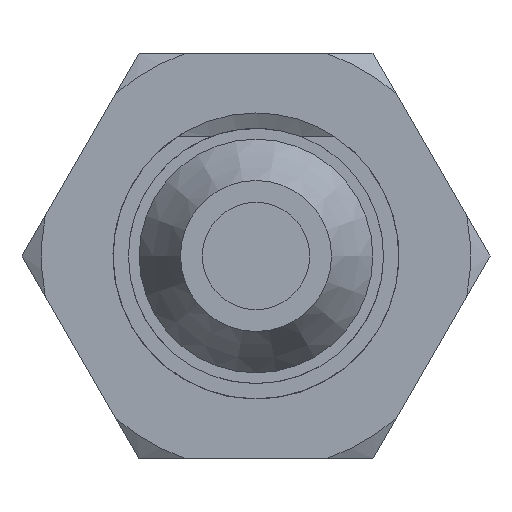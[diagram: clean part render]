
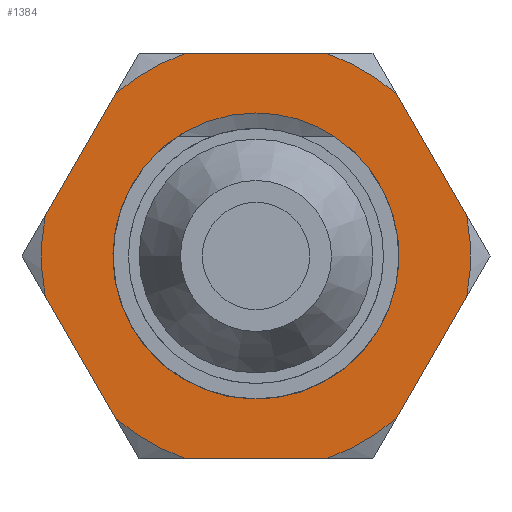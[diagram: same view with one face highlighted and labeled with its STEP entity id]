
A CAD part, left-side view. The second image highlights one B-rep face of the part: STEP entity #1384.
In plain terms, the highlighted planar face has unit normal (-1, 0, 0).
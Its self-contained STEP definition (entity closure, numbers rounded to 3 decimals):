
#1260=CARTESIAN_POINT('',(-7.75,0.,6.));
#1261=VERTEX_POINT('',#1260);
#1262=CARTESIAN_POINT('',(-7.75,0.0,0.));
#1263=DIRECTION('',(-1.0,0.0,0.0));
#1264=DIRECTION('',(0.0,0.0,-1.0));
#1265=AXIS2_PLACEMENT_3D('',#1262,#1263,#1264);
#1266=CIRCLE('',#1265,6.);
#1267=EDGE_CURVE('',#1261,#1261,#1266,.T.);
#1272=CARTESIAN_POINT('',(-7.75,0.,0.));
#1273=DIRECTION('',(1.0,0.0,0.0));
#1274=DIRECTION('',(0.0,0.0,-1.0));
#1275=AXIS2_PLACEMENT_3D('',#1272,#1273,#1274);
#1276=PLANE('',#1275);
#1277=CARTESIAN_POINT('',(-7.75,2.958,8.5));
#1278=VERTEX_POINT('',#1277);
#1279=CARTESIAN_POINT('',(-7.75,5.882,6.812));
#1280=VERTEX_POINT('',#1279);
#1281=CARTESIAN_POINT('',(-7.75,0.0,0.));
#1282=DIRECTION('',(-1.0,0.0,0.0));
#1283=DIRECTION('',(0.0,1.0,0.0));
#1284=AXIS2_PLACEMENT_3D('',#1281,#1282,#1283);
#1285=CIRCLE('',#1284,9.0);
#1286=EDGE_CURVE('',#1278,#1280,#1285,.T.);
#1287=ORIENTED_EDGE('',*,*,#1286,.T.);
#1288=CARTESIAN_POINT('',(-7.75,8.84,1.688));
#1289=VERTEX_POINT('',#1288);
#1290=CARTESIAN_POINT('',(-7.75,5.882,6.812));
#1291=DIRECTION('',(0.0,0.5,-0.866));
#1292=VECTOR('',#1291,5.916);
#1293=LINE('',#1290,#1292);
#1294=EDGE_CURVE('',#1280,#1289,#1293,.T.);
#1295=ORIENTED_EDGE('',*,*,#1294,.T.);
#1296=CARTESIAN_POINT('',(-7.75,8.84,-1.688));
#1297=VERTEX_POINT('',#1296);
#1298=CARTESIAN_POINT('',(-7.75,0.0,0.));
#1299=DIRECTION('',(-1.0,0.0,0.0));
#1300=DIRECTION('',(0.0,1.0,0.0));
#1301=AXIS2_PLACEMENT_3D('',#1298,#1299,#1300);
#1302=CIRCLE('',#1301,9.0);
#1303=EDGE_CURVE('',#1289,#1297,#1302,.T.);
#1304=ORIENTED_EDGE('',*,*,#1303,.T.);
#1305=CARTESIAN_POINT('',(-7.75,5.882,-6.812));
#1306=VERTEX_POINT('',#1305);
#1307=CARTESIAN_POINT('',(-7.75,8.84,-1.688));
#1308=DIRECTION('',(0.0,-0.5,-0.866));
#1309=VECTOR('',#1308,5.916);
#1310=LINE('',#1307,#1309);
#1311=EDGE_CURVE('',#1297,#1306,#1310,.T.);
#1312=ORIENTED_EDGE('',*,*,#1311,.T.);
#1313=CARTESIAN_POINT('',(-7.75,2.958,-8.5));
#1314=VERTEX_POINT('',#1313);
#1315=CARTESIAN_POINT('',(-7.75,0.0,0.));
#1316=DIRECTION('',(-1.0,0.0,0.0));
#1317=DIRECTION('',(0.0,1.0,0.0));
#1318=AXIS2_PLACEMENT_3D('',#1315,#1316,#1317);
#1319=CIRCLE('',#1318,9.0);
#1320=EDGE_CURVE('',#1306,#1314,#1319,.T.);
#1321=ORIENTED_EDGE('',*,*,#1320,.T.);
#1322=CARTESIAN_POINT('',(-7.75,-2.958,-8.5));
#1323=VERTEX_POINT('',#1322);
#1324=CARTESIAN_POINT('',(-7.75,2.958,-8.5));
#1325=DIRECTION('',(0.0,-1.0,0.0));
#1326=VECTOR('',#1325,5.916);
#1327=LINE('',#1324,#1326);
#1328=EDGE_CURVE('',#1314,#1323,#1327,.T.);
#1329=ORIENTED_EDGE('',*,*,#1328,.T.);
#1330=CARTESIAN_POINT('',(-7.75,-5.882,-6.812));
#1331=VERTEX_POINT('',#1330);
#1332=CARTESIAN_POINT('',(-7.75,0.0,0.));
#1333=DIRECTION('',(-1.0,0.0,0.0));
#1334=DIRECTION('',(0.0,1.0,0.0));
#1335=AXIS2_PLACEMENT_3D('',#1332,#1333,#1334);
#1336=CIRCLE('',#1335,9.0);
#1337=EDGE_CURVE('',#1323,#1331,#1336,.T.);
#1338=ORIENTED_EDGE('',*,*,#1337,.T.);
#1339=CARTESIAN_POINT('',(-7.75,-8.84,-1.688));
#1340=VERTEX_POINT('',#1339);
#1341=CARTESIAN_POINT('',(-7.75,-5.882,-6.812));
#1342=DIRECTION('',(0.0,-0.5,0.866));
#1343=VECTOR('',#1342,5.916);
#1344=LINE('',#1341,#1343);
#1345=EDGE_CURVE('',#1331,#1340,#1344,.T.);
#1346=ORIENTED_EDGE('',*,*,#1345,.T.);
#1347=CARTESIAN_POINT('',(-7.75,-8.84,1.688));
#1348=VERTEX_POINT('',#1347);
#1349=CARTESIAN_POINT('',(-7.75,0.0,0.));
#1350=DIRECTION('',(-1.0,0.0,0.0));
#1351=DIRECTION('',(0.0,1.0,0.0));
#1352=AXIS2_PLACEMENT_3D('',#1349,#1350,#1351);
#1353=CIRCLE('',#1352,9.0);
#1354=EDGE_CURVE('',#1340,#1348,#1353,.T.);
#1355=ORIENTED_EDGE('',*,*,#1354,.T.);
#1356=CARTESIAN_POINT('',(-7.75,-5.882,6.812));
#1357=VERTEX_POINT('',#1356);
#1358=CARTESIAN_POINT('',(-7.75,-8.84,1.688));
#1359=DIRECTION('',(0.0,0.5,0.866));
#1360=VECTOR('',#1359,5.916);
#1361=LINE('',#1358,#1360);
#1362=EDGE_CURVE('',#1348,#1357,#1361,.T.);
#1363=ORIENTED_EDGE('',*,*,#1362,.T.);
#1364=CARTESIAN_POINT('',(-7.75,-2.958,8.5));
#1365=VERTEX_POINT('',#1364);
#1366=CARTESIAN_POINT('',(-7.75,0.0,0.));
#1367=DIRECTION('',(-1.0,0.0,0.0));
#1368=DIRECTION('',(0.0,1.0,0.0));
#1369=AXIS2_PLACEMENT_3D('',#1366,#1367,#1368);
#1370=CIRCLE('',#1369,9.0);
#1371=EDGE_CURVE('',#1357,#1365,#1370,.T.);
#1372=ORIENTED_EDGE('',*,*,#1371,.T.);
#1373=CARTESIAN_POINT('',(-7.75,-2.958,8.5));
#1374=DIRECTION('',(0.0,1.0,0.0));
#1375=VECTOR('',#1374,5.916);
#1376=LINE('',#1373,#1375);
#1377=EDGE_CURVE('',#1365,#1278,#1376,.T.);
#1378=ORIENTED_EDGE('',*,*,#1377,.T.);
#1379=EDGE_LOOP('',(#1287,#1295,#1304,#1312,#1321,#1329,#1338,#1346,#1355,#1363,#1372,#1378));
#1380=FACE_OUTER_BOUND('',#1379,.T.);
#1381=ORIENTED_EDGE('',*,*,#1267,.F.);
#1382=EDGE_LOOP('',(#1381));
#1383=FACE_BOUND('',#1382,.T.);
#1384=ADVANCED_FACE('',(#1380,#1383),#1276,.F.);
